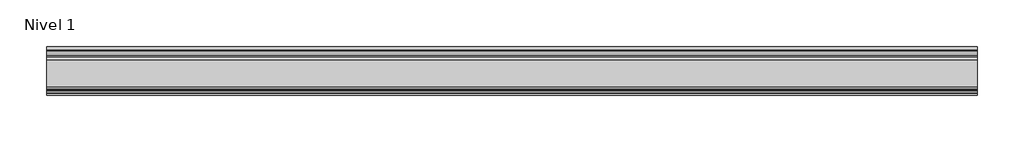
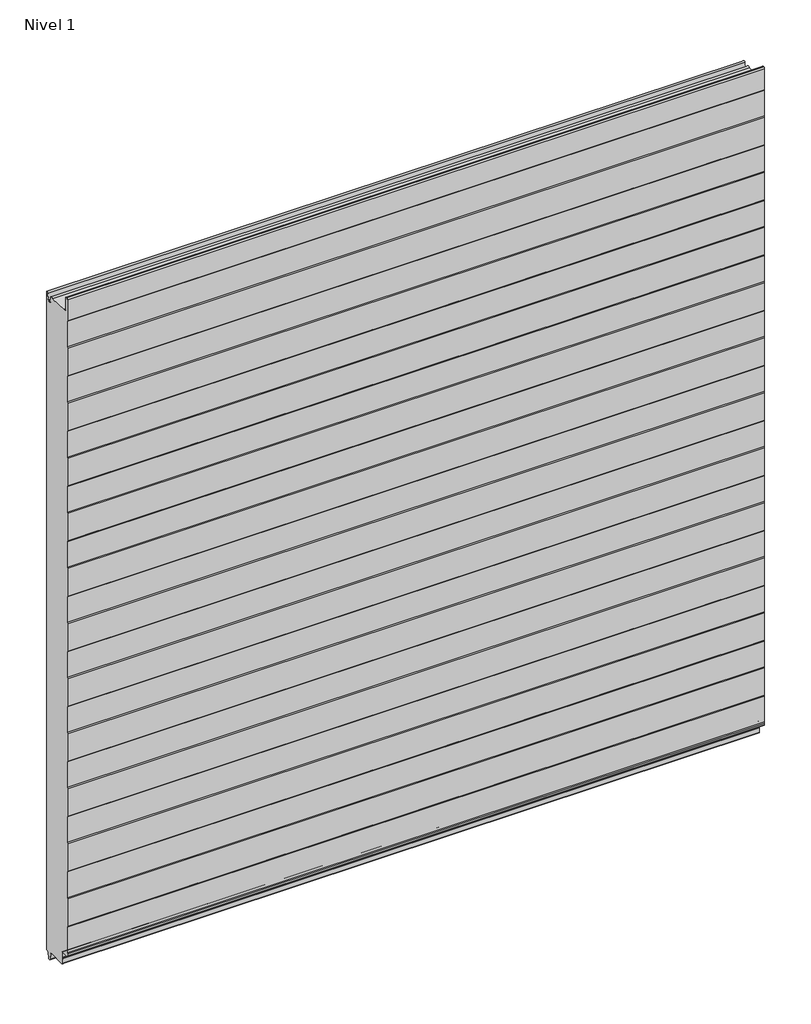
# One storey: 1 plate.
"""IFC4 building model written with IfcOpenShell, lengths in millimetres."""

from ifc_helpers import new_model, si_unit, origin, place, context, project, spatial, transform, mapped, element, save
from components import plate_dcec8105

model = new_model("IFC4")

# Units and contexts
model_context = context("Model", 3, world=origin())
ifc_project = project(units=[si_unit("LENGTHUNIT", "METRE", prefix="MILLI")], contexts=[model_context])

# Site, building, storey
site = spatial("IfcSite", under=ifc_project)
building = spatial("IfcBuilding", under=site)
storey = spatial("IfcBuildingStorey", under=building, Name="Nivel 1", Elevation=0.0)

# Plate
placement = place(None, origin())
plate_shape = plate_dcec8105(model_context)
element("IfcPlate", 1, ObjectType="HI-PIRM STS 60", at=placement, inside=storey, context=model_context, shape_type="MappedRepresentation", body=[
    mapped(plate_shape, transform((-281.9838401, 1336.3093497, 0.0), x_axis=(1.0, 0.0, 0.0), y_axis=(0.0, 1.0, 0.0), z_axis=(0.0, 0.0, 1.0))),
])

save(model, "model.ifc")
